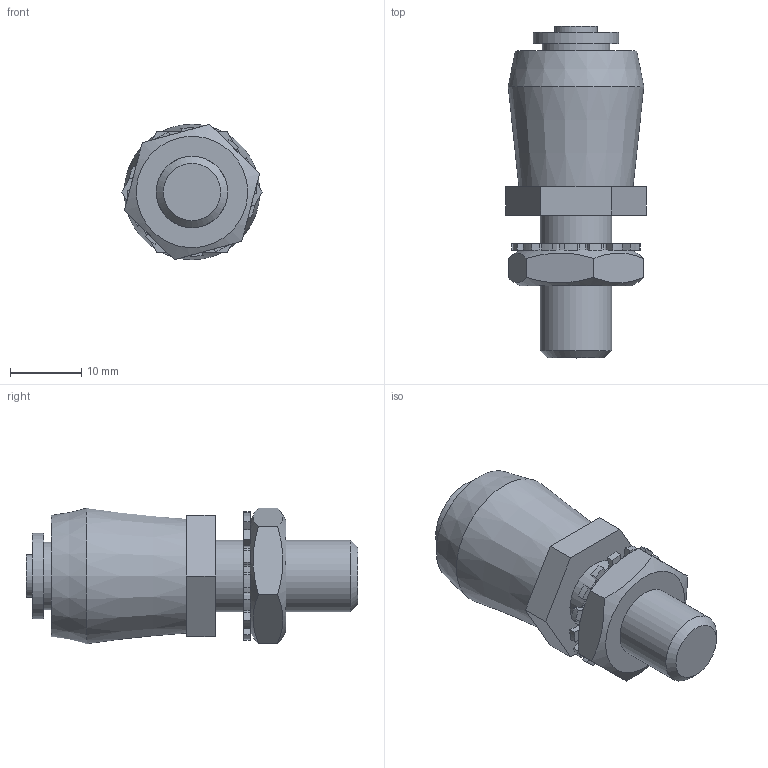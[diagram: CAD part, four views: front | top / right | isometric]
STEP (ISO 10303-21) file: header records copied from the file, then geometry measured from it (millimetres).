
FILE_DESCRIPTION(/* description */ ('Kunststoff Rolle Ø19'),/* implementation_level */ '2;1');
FILE_NAME(/* name */ 'Q:\sge-ma\Produktmanagement-STB\STB\Workspace\stp\010336221.stp',/* time_stamp */ '2016-07-20T09:06:19+02:00',/* author */ ('avschreier'),/* organization */ (''),/* preprocessor_version */ 'ST-DEVELOPER v16.1',/* originating_system */ 'Autodesk Inventor 2016',/* authorisation */ '');
FILE_SCHEMA (('CONFIG_CONTROL_DESIGN'));
Length unit declared in the file: millimetre
Products named in the file (6): 337000146; 337000144; DIN_EN_ISO_7090-6,4_en; DIN_6798-A_10,5_en; DIN_EN_ISO_4035-M10_en; 010336221
Assembly tree (5 placements, depth 2):
  010336221
    337000146
    337000144
    DIN_EN_ISO_7090-6,4_en
    DIN_6798-A_10,5_en
    DIN_EN_ISO_4035-M10_en
Bounding box: 19.63 x 46.5 x 19 mm (x, y, z)
Volume: 8450.1 mm3; surface area: 5271.6 mm2
Topology: 5 solids, 5 shells, 136 faces, 364 edges, 241 vertices
Faces by surface type: cylinder 72, plane 57, cone 7
Full cylindrical faces by diameter (mm): 6 x1, 6.4 x1, 8.376 x1, 9.5 x1, 9.7 x1, 10 x1, 10.5 x1, 12 x1
Entity records: 4362 total; most frequent: DIRECTION 782, CARTESIAN_POINT 759, ORIENTED_EDGE 696, EDGE_CURVE 348, AXIS2_PLACEMENT_3D 299, VERTEX_POINT 240, LINE 184, VECTOR 184
